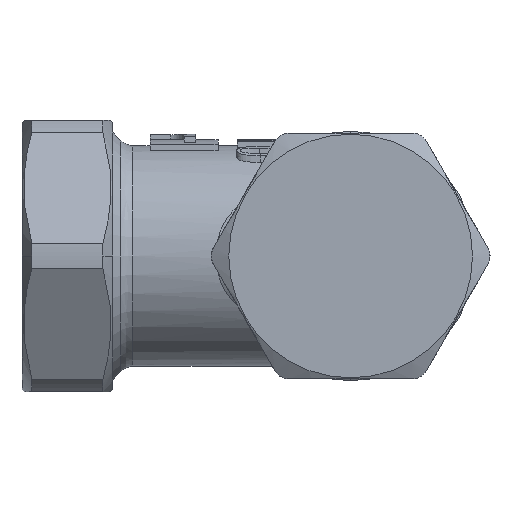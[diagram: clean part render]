
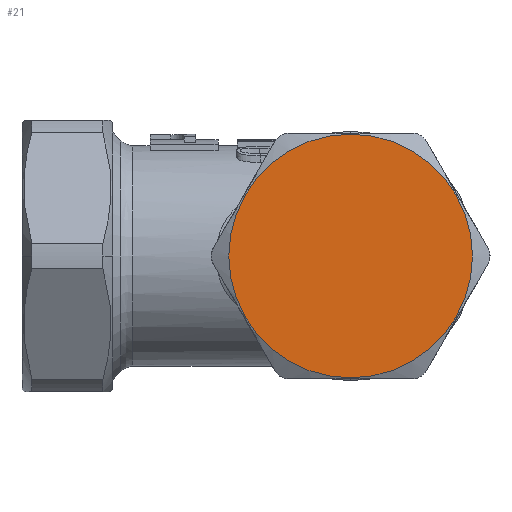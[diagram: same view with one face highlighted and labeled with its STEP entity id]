
A CAD part, left-side view. The second image highlights one B-rep face of the part: STEP entity #21.
In plain terms, the highlighted planar face has unit normal (-1, 0, 0).
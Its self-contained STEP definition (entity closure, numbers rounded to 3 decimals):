
#21 = ADVANCED_FACE ( 'NONE', ( #5224 ), #3439, .T. ) ;
#1542 = CIRCLE ( 'NONE', #9003, 10.75 ) ;
#2600 = CARTESIAN_POINT ( 'NONE',  ( -24., 0., -10.75 ) ) ;
#2990 = CARTESIAN_POINT ( 'NONE',  ( -24., 0., 0. ) ) ;
#3097 = VERTEX_POINT ( 'NONE', #4909 ) ;
#3439 = PLANE ( 'NONE',  #7316 ) ;
#3455 = DIRECTION ( 'NONE',  ( 0., 0., -1. ) ) ;
#3550 = DIRECTION ( 'NONE',  ( 0., 0., 1. ) ) ;
#3565 = ORIENTED_EDGE ( 'NONE', *, *, #10150, .F. ) ;
#3618 = EDGE_CURVE ( 'NONE', #8235, #3097, #1542, .T. ) ;
#4630 = ORIENTED_EDGE ( 'NONE', *, *, #3618, .F. ) ;
#4909 = CARTESIAN_POINT ( 'NONE',  ( -24., 0., 10.75 ) ) ;
#5061 = CARTESIAN_POINT ( 'NONE',  ( -24., -7.475, 0. ) ) ;
#5108 = CARTESIAN_POINT ( 'NONE',  ( -24., 0., 0. ) ) ;
#5224 = FACE_OUTER_BOUND ( 'NONE', #7236, .T. ) ;
#6209 = AXIS2_PLACEMENT_3D ( 'NONE', #2990, #7900, #9473 ) ;
#6704 = DIRECTION ( 'NONE',  ( -1., 0., 0. ) ) ;
#7236 = EDGE_LOOP ( 'NONE', ( #4630, #3565 ) ) ;
#7316 = AXIS2_PLACEMENT_3D ( 'NONE', #5061, #6704, #3550 ) ;
#7900 = DIRECTION ( 'NONE',  ( 1., 0., 0. ) ) ;
#8235 = VERTEX_POINT ( 'NONE', #2600 ) ;
#8307 = DIRECTION ( 'NONE',  ( 1., 0., 0. ) ) ;
#9003 = AXIS2_PLACEMENT_3D ( 'NONE', #5108, #8307, #3455 ) ;
#9473 = DIRECTION ( 'NONE',  ( 0., 0., -1. ) ) ;
#10112 = CIRCLE ( 'NONE', #6209, 10.75 ) ;
#10150 = EDGE_CURVE ( 'NONE', #3097, #8235, #10112, .T. ) ;
